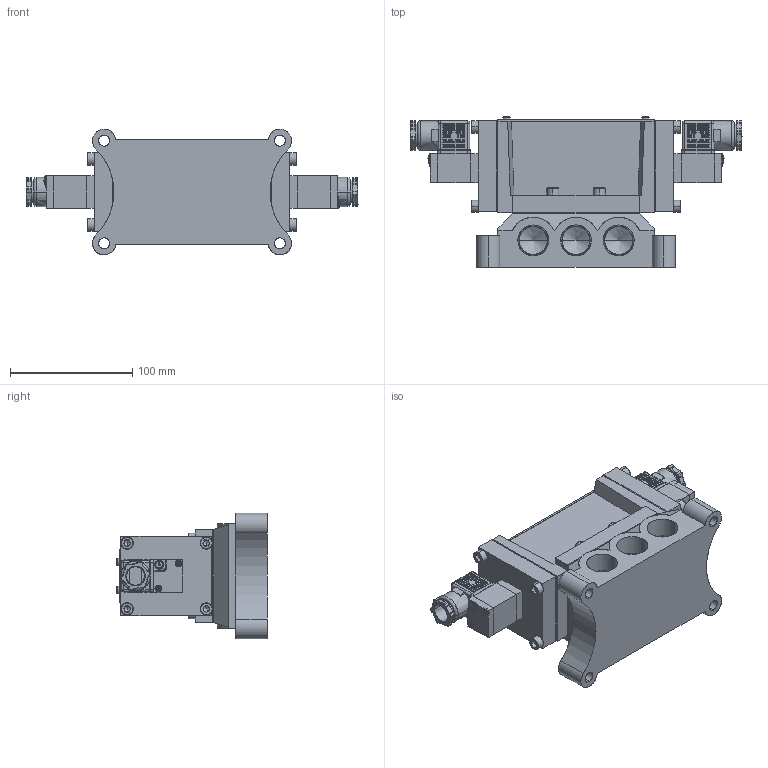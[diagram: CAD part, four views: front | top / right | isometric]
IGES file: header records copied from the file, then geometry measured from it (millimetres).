
Start section: SolidWorks IGES file using analytic representation for surfaces
Global section: file name: D:\Custom\3D繪製\PM\PM15\PMD2415#-06-#C#.IGS,1; native system: 5HSolidWorks 2014; preprocessor: SolidWorks 2014; author: Chieh_Lu; date: 151215.222210; units: millimetre
Bounding box: 272 x 123.55 x 103 mm (x, y, z)
Surface area: 225752.5 mm2 (no closed solid volume)
Topology: 0 solids, 0 shells, 1748 faces, 15763 edges, 15461 vertices
Faces by surface type: revolution 920, bspline 828
